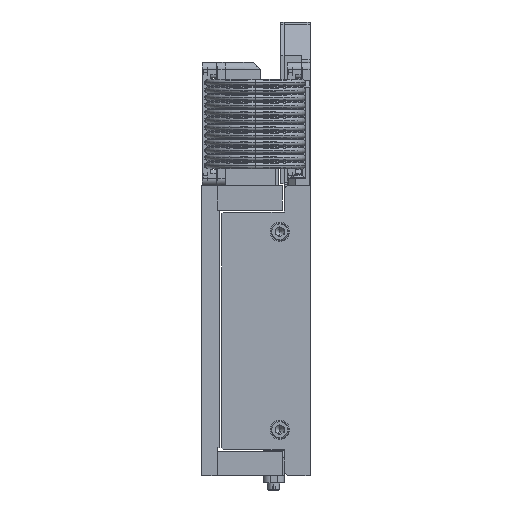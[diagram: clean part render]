
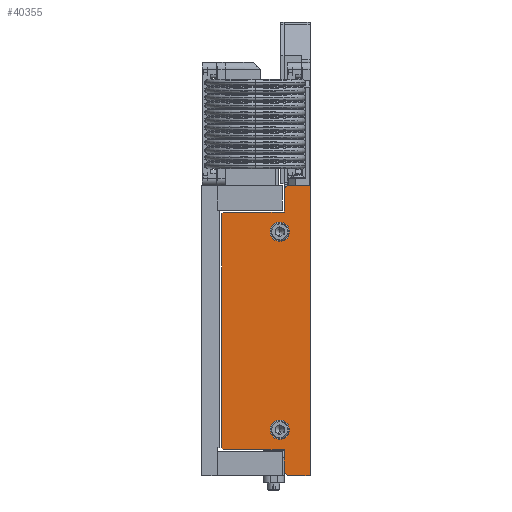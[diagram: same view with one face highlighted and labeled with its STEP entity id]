
A CAD part, left-side view. The second image highlights one B-rep face of the part: STEP entity #40355.
In plain terms, the highlighted planar face has unit normal (-1, 0, 0).
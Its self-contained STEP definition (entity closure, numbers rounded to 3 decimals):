
#2821 = ORIENTED_EDGE ( 'NONE', *, *, #94383, .T. ) ;
#2844 = EDGE_CURVE ( 'NONE', #112150, #19079, #52142, .T. ) ;
#3505 = EDGE_CURVE ( 'NONE', #115368, #58165, #102468, .T. ) ;
#5377 = VERTEX_POINT ( 'NONE', #111092 ) ;
#6069 = FACE_BOUND ( 'NONE', #87060, .T. ) ;
#8215 = ORIENTED_EDGE ( 'NONE', *, *, #95084, .T. ) ;
#9551 = EDGE_CURVE ( 'NONE', #26134, #67701, #29391, .T. ) ;
#10879 = LINE ( 'NONE', #116040, #17810 ) ;
#11195 = VERTEX_POINT ( 'NONE', #84773 ) ;
#11415 = DIRECTION ( 'NONE',  ( -1., 0., 0. ) ) ;
#11554 = CARTESIAN_POINT ( 'NONE',  ( -240., 17.5, 56.25 ) ) ;
#11929 = DIRECTION ( 'NONE',  ( 0., 0.707, -0.707 ) ) ;
#12841 = DIRECTION ( 'NONE',  ( 0., 0., 1. ) ) ;
#12906 = AXIS2_PLACEMENT_3D ( 'NONE', #91066, #11415, #37250 ) ;
#13507 = DIRECTION ( 'NONE',  ( 0., -1., 0. ) ) ;
#13694 = LINE ( 'NONE', #39441, #88026 ) ;
#13915 = ORIENTED_EDGE ( 'NONE', *, *, #28428, .T. ) ;
#14871 = CARTESIAN_POINT ( 'NONE',  ( -240., 17.5, 50.75 ) ) ;
#16181 = ORIENTED_EDGE ( 'NONE', *, *, #3505, .T. ) ;
#17810 = VECTOR ( 'NONE', #25847, 1000. ) ;
#19079 = VERTEX_POINT ( 'NONE', #14871 ) ;
#19934 = CARTESIAN_POINT ( 'NONE',  ( -240., 15., -67.5 ) ) ;
#20015 = CARTESIAN_POINT ( 'NONE',  ( -240., 49.5, -67.5 ) ) ;
#21694 = ORIENTED_EDGE ( 'NONE', *, *, #60386, .F. ) ;
#23041 = CARTESIAN_POINT ( 'NONE',  ( -240., 15., -80.55 ) ) ;
#23196 = EDGE_CURVE ( 'NONE', #72208, #26134, #114535, .T. ) ;
#23260 = ORIENTED_EDGE ( 'NONE', *, *, #86900, .T. ) ;
#23513 = EDGE_CURVE ( 'NONE', #108537, #11195, #55538, .T. ) ;
#24812 = DIRECTION ( 'NONE',  ( 0., -1., 0. ) ) ;
#25160 = VERTEX_POINT ( 'NONE', #70154 ) ;
#25297 = CIRCLE ( 'NONE', #77048, 5.5 ) ;
#25494 = VECTOR ( 'NONE', #41101, 1000. ) ;
#25847 = DIRECTION ( 'NONE',  ( 0., 1., 0. ) ) ;
#25965 = VECTOR ( 'NONE', #53964, 1000. ) ;
#26134 = VERTEX_POINT ( 'NONE', #20015 ) ;
#26387 = EDGE_CURVE ( 'NONE', #67701, #32388, #73290, .T. ) ;
#26848 = CARTESIAN_POINT ( 'NONE',  ( -240., 13.05, 82.5 ) ) ;
#27256 = EDGE_LOOP ( 'NONE', ( #8215, #107530, #89998, #13915, #93472, #16181, #2821, #116204, #29697, #69389, #83384, #23260 ) ) ;
#27677 = VERTEX_POINT ( 'NONE', #49740 ) ;
#28428 = EDGE_CURVE ( 'NONE', #72117, #41187, #106474, .T. ) ;
#29391 = LINE ( 'NONE', #95911, #98245 ) ;
#29697 = ORIENTED_EDGE ( 'NONE', *, *, #9551, .T. ) ;
#29759 = CARTESIAN_POINT ( 'NONE',  ( -240., 17.5, 61.75 ) ) ;
#31044 = CARTESIAN_POINT ( 'NONE',  ( -240., 15., -80.55 ) ) ;
#32388 = VERTEX_POINT ( 'NONE', #31044 ) ;
#32977 = LINE ( 'NONE', #47952, #96214 ) ;
#34035 = EDGE_CURVE ( 'NONE', #19079, #112150, #41971, .T. ) ;
#34821 = VECTOR ( 'NONE', #100114, 1000. ) ;
#36091 = EDGE_CURVE ( 'NONE', #32388, #87140, #67110, .T. ) ;
#37250 = DIRECTION ( 'NONE',  ( 0., 0., 1. ) ) ;
#38752 = AXIS2_PLACEMENT_3D ( 'NONE', #115457, #88124, #42539 ) ;
#39044 = VECTOR ( 'NONE', #108577, 1000. ) ;
#39439 = CARTESIAN_POINT ( 'NONE',  ( -240., 17.5, -56.25 ) ) ;
#39441 = CARTESIAN_POINT ( 'NONE',  ( -240., 50.5, -66.5 ) ) ;
#40170 = CARTESIAN_POINT ( 'NONE',  ( -240., 50.5, -66.5 ) ) ;
#40355 = ADVANCED_FACE ( 'NONE', ( #6069, #50891, #94500 ), #96342, .F. ) ;
#41101 = DIRECTION ( 'NONE',  ( 0., 0., -1. ) ) ;
#41187 = VERTEX_POINT ( 'NONE', #106267 ) ;
#41385 = DIRECTION ( 'NONE',  ( 0., -0.707, -0.707 ) ) ;
#41971 = CIRCLE ( 'NONE', #12906, 5.5 ) ;
#42539 = DIRECTION ( 'NONE',  ( 0., 0., -1. ) ) ;
#43768 = ORIENTED_EDGE ( 'NONE', *, *, #72930, .F. ) ;
#46808 = CARTESIAN_POINT ( 'NONE',  ( -240., 15., 80.55 ) ) ;
#47087 = VECTOR ( 'NONE', #11929, 1000. ) ;
#47952 = CARTESIAN_POINT ( 'NONE',  ( -240., 0.25, 82.5 ) ) ;
#49740 = CARTESIAN_POINT ( 'NONE',  ( -240., 17.5, -61.75 ) ) ;
#50580 = VECTOR ( 'NONE', #13507, 1000. ) ;
#50891 = FACE_BOUND ( 'NONE', #95764, .T. ) ;
#52142 = CIRCLE ( 'NONE', #59130, 5.5 ) ;
#53500 = DIRECTION ( 'NONE',  ( 0., 0.707, -0.707 ) ) ;
#53964 = DIRECTION ( 'NONE',  ( 0., 1., 0. ) ) ;
#55505 = CARTESIAN_POINT ( 'NONE',  ( -240., 0.25, 82.5 ) ) ;
#55538 = LINE ( 'NONE', #26848, #25965 ) ;
#57379 = CARTESIAN_POINT ( 'NONE',  ( -240., 0.25, -82.5 ) ) ;
#57417 = EDGE_CURVE ( 'NONE', #41187, #115368, #10879, .T. ) ;
#58165 = VERTEX_POINT ( 'NONE', #61221 ) ;
#58266 = DIRECTION ( 'NONE',  ( -1., 0., 0. ) ) ;
#59130 = AXIS2_PLACEMENT_3D ( 'NONE', #11554, #93487, #101746 ) ;
#60386 = EDGE_CURVE ( 'NONE', #25160, #27677, #97225, .T. ) ;
#61221 = CARTESIAN_POINT ( 'NONE',  ( -240., 50.5, 66.5 ) ) ;
#65118 = CARTESIAN_POINT ( 'NONE',  ( -240., 15., 67.5 ) ) ;
#66561 = CARTESIAN_POINT ( 'NONE',  ( -240., 17.5, -56.25 ) ) ;
#66936 = DIRECTION ( 'NONE',  ( -1., 0., 0. ) ) ;
#67110 = LINE ( 'NONE', #90903, #39044 ) ;
#67701 = VERTEX_POINT ( 'NONE', #19934 ) ;
#67715 = AXIS2_PLACEMENT_3D ( 'NONE', #66561, #66936, #12841 ) ;
#69389 = ORIENTED_EDGE ( 'NONE', *, *, #26387, .T. ) ;
#69490 = DIRECTION ( 'NONE',  ( 0., 0., 1. ) ) ;
#69676 = VECTOR ( 'NONE', #41385, 1000. ) ;
#70154 = CARTESIAN_POINT ( 'NONE',  ( -240., 17.5, -50.75 ) ) ;
#72117 = VERTEX_POINT ( 'NONE', #91707 ) ;
#72208 = VERTEX_POINT ( 'NONE', #40170 ) ;
#72930 = EDGE_CURVE ( 'NONE', #27677, #25160, #25297, .T. ) ;
#73290 = LINE ( 'NONE', #23041, #25494 ) ;
#77048 = AXIS2_PLACEMENT_3D ( 'NONE', #39439, #58266, #103408 ) ;
#78100 = LINE ( 'NONE', #46808, #47087 ) ;
#81678 = ORIENTED_EDGE ( 'NONE', *, *, #34035, .F. ) ;
#81849 = CARTESIAN_POINT ( 'NONE',  ( -240., 49.5, 67.5 ) ) ;
#83384 = ORIENTED_EDGE ( 'NONE', *, *, #36091, .T. ) ;
#84773 = CARTESIAN_POINT ( 'NONE',  ( -240., 13.05, 82.5 ) ) ;
#86900 = EDGE_CURVE ( 'NONE', #87140, #5377, #106865, .T. ) ;
#87060 = EDGE_LOOP ( 'NONE', ( #21694, #43768 ) ) ;
#87140 = VERTEX_POINT ( 'NONE', #87234 ) ;
#87234 = CARTESIAN_POINT ( 'NONE',  ( -240., 13.05, -82.5 ) ) ;
#88026 = VECTOR ( 'NONE', #93246, 1000. ) ;
#88124 = DIRECTION ( 'NONE',  ( 1., 0., 0. ) ) ;
#89998 = ORIENTED_EDGE ( 'NONE', *, *, #94914, .T. ) ;
#90903 = CARTESIAN_POINT ( 'NONE',  ( -240., 13.05, -82.5 ) ) ;
#91066 = CARTESIAN_POINT ( 'NONE',  ( -240., 17.5, 56.25 ) ) ;
#91707 = CARTESIAN_POINT ( 'NONE',  ( -240., 15., 80.55 ) ) ;
#93246 = DIRECTION ( 'NONE',  ( 0., 0., -1. ) ) ;
#93472 = ORIENTED_EDGE ( 'NONE', *, *, #57417, .T. ) ;
#93487 = DIRECTION ( 'NONE',  ( -1., 0., 0. ) ) ;
#94383 = EDGE_CURVE ( 'NONE', #58165, #72208, #13694, .T. ) ;
#94500 = FACE_OUTER_BOUND ( 'NONE', #27256, .T. ) ;
#94914 = EDGE_CURVE ( 'NONE', #11195, #72117, #78100, .T. ) ;
#95084 = EDGE_CURVE ( 'NONE', #5377, #108537, #32977, .T. ) ;
#95764 = EDGE_LOOP ( 'NONE', ( #109180, #81678 ) ) ;
#95911 = CARTESIAN_POINT ( 'NONE',  ( -240., 15., -67.5 ) ) ;
#96214 = VECTOR ( 'NONE', #69490, 1000. ) ;
#96342 = PLANE ( 'NONE',  #38752 ) ;
#97225 = CIRCLE ( 'NONE', #67715, 5.5 ) ;
#98245 = VECTOR ( 'NONE', #24812, 1000. ) ;
#100114 = DIRECTION ( 'NONE',  ( 0., 0., -1. ) ) ;
#101746 = DIRECTION ( 'NONE',  ( 0., 0., 1. ) ) ;
#102468 = LINE ( 'NONE', #106892, #103826 ) ;
#103408 = DIRECTION ( 'NONE',  ( 0., 0., 1. ) ) ;
#103826 = VECTOR ( 'NONE', #53500, 1000. ) ;
#106267 = CARTESIAN_POINT ( 'NONE',  ( -240., 15., 67.5 ) ) ;
#106474 = LINE ( 'NONE', #65118, #34821 ) ;
#106865 = LINE ( 'NONE', #57379, #50580 ) ;
#106892 = CARTESIAN_POINT ( 'NONE',  ( -240., 50.5, 66.5 ) ) ;
#107530 = ORIENTED_EDGE ( 'NONE', *, *, #23513, .T. ) ;
#108537 = VERTEX_POINT ( 'NONE', #55505 ) ;
#108577 = DIRECTION ( 'NONE',  ( 0., -0.707, -0.707 ) ) ;
#109180 = ORIENTED_EDGE ( 'NONE', *, *, #2844, .F. ) ;
#111092 = CARTESIAN_POINT ( 'NONE',  ( -240., 0.25, -82.5 ) ) ;
#112150 = VERTEX_POINT ( 'NONE', #29759 ) ;
#113144 = CARTESIAN_POINT ( 'NONE',  ( -240., 49.5, -67.5 ) ) ;
#114535 = LINE ( 'NONE', #113144, #69676 ) ;
#115368 = VERTEX_POINT ( 'NONE', #81849 ) ;
#115457 = CARTESIAN_POINT ( 'NONE',  ( -240., 0., 0. ) ) ;
#116040 = CARTESIAN_POINT ( 'NONE',  ( -240., 49.5, 67.5 ) ) ;
#116204 = ORIENTED_EDGE ( 'NONE', *, *, #23196, .T. ) ;
